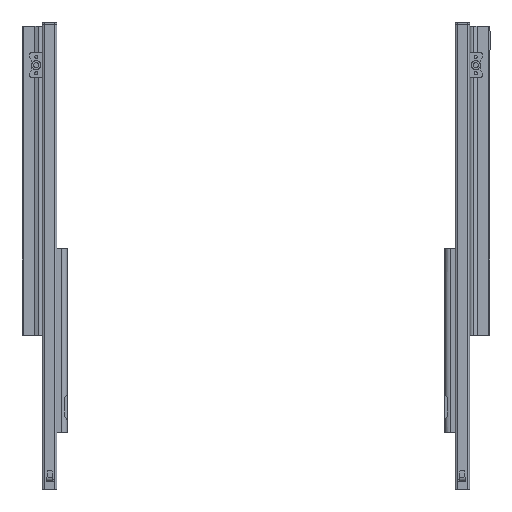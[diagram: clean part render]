
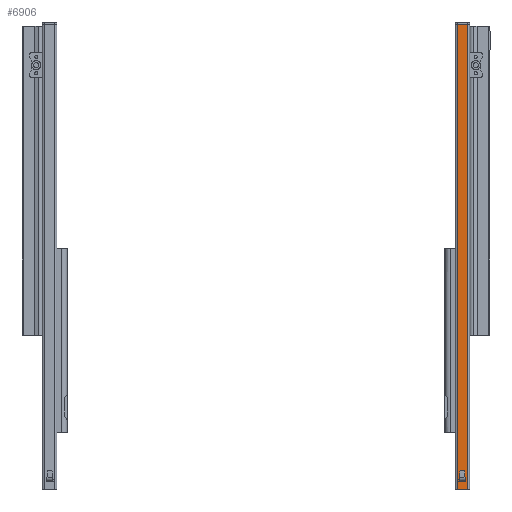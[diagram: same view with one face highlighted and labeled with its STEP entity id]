
A CAD part, front view. The second image highlights one B-rep face of the part: STEP entity #6906.
In plain terms, the highlighted planar face has unit normal (0, -1, 0).
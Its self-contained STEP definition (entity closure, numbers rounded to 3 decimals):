
#126=FACE_BOUND('',#950,.T.);
#516=FACE_OUTER_BOUND('',#949,.T.);
#949=EDGE_LOOP('',(#5133,#5134,#5135,#5136));
#950=EDGE_LOOP('',(#5137,#5138,#5139,#5140));
#1444=LINE('',#10423,#2074);
#1447=LINE('',#10429,#2077);
#1450=LINE('',#10461,#2080);
#1453=LINE('',#10468,#2083);
#1510=LINE('',#10655,#2140);
#1511=LINE('',#10659,#2141);
#1512=LINE('',#10661,#2142);
#1513=LINE('',#10662,#2143);
#2074=VECTOR('',#8436,10.);
#2077=VECTOR('',#8441,10.);
#2080=VECTOR('',#8446,10.);
#2083=VECTOR('',#8457,10.);
#2140=VECTOR('',#8648,10.);
#2141=VECTOR('',#8653,10.);
#2142=VECTOR('',#8654,10.);
#2143=VECTOR('',#8655,10.);
#2990=VERTEX_POINT('',#10420);
#2991=VERTEX_POINT('',#10422);
#2993=VERTEX_POINT('',#10428);
#2994=VERTEX_POINT('',#10460);
#3056=VERTEX_POINT('',#10652);
#3057=VERTEX_POINT('',#10654);
#3058=VERTEX_POINT('',#10658);
#3059=VERTEX_POINT('',#10660);
#3721=EDGE_CURVE('',#2990,#2991,#1444,.T.);
#3724=EDGE_CURVE('',#2991,#2993,#1447,.T.);
#3728=EDGE_CURVE('',#2993,#2994,#1450,.T.);
#3731=EDGE_CURVE('',#2994,#2990,#1453,.T.);
#3820=EDGE_CURVE('',#3056,#3057,#1510,.T.);
#3822=EDGE_CURVE('',#3056,#3058,#1511,.T.);
#3823=EDGE_CURVE('',#3058,#3059,#1512,.T.);
#3824=EDGE_CURVE('',#3059,#3057,#1513,.T.);
#5133=ORIENTED_EDGE('',*,*,#3822,.T.);
#5134=ORIENTED_EDGE('',*,*,#3823,.T.);
#5135=ORIENTED_EDGE('',*,*,#3824,.T.);
#5136=ORIENTED_EDGE('',*,*,#3820,.F.);
#5137=ORIENTED_EDGE('',*,*,#3721,.F.);
#5138=ORIENTED_EDGE('',*,*,#3731,.F.);
#5139=ORIENTED_EDGE('',*,*,#3728,.F.);
#5140=ORIENTED_EDGE('',*,*,#3724,.F.);
#6267=PLANE('',#7435);
#6906=ADVANCED_FACE('',(#516,#126),#6267,.F.);
#7435=AXIS2_PLACEMENT_3D('',#10657,#8651,#8652);
#8436=DIRECTION('',(0.,0.,-1.));
#8441=DIRECTION('',(1.,0.,0.));
#8446=DIRECTION('',(0.,0.,1.));
#8457=DIRECTION('',(-1.,0.,0.));
#8648=DIRECTION('',(0.,0.,-1.));
#8651=DIRECTION('center_axis',(0.,1.,0.));
#8652=DIRECTION('ref_axis',(1.,0.,0.));
#8653=DIRECTION('',(-1.,0.,0.));
#8654=DIRECTION('',(0.,0.,-1.));
#8655=DIRECTION('',(1.,0.,0.));
#10420=CARTESIAN_POINT('',(38.034,8.,-337.097));
#10422=CARTESIAN_POINT('',(38.034,8.,-338.597));
#10423=CARTESIAN_POINT('',(38.034,8.,-114.597));
#10428=CARTESIAN_POINT('',(44.652,8.,-338.597));
#10429=CARTESIAN_POINT('',(38.843,8.,-338.597));
#10460=CARTESIAN_POINT('',(44.652,8.,-337.097));
#10461=CARTESIAN_POINT('',(44.652,8.,-114.597));
#10468=CARTESIAN_POINT('',(38.843,8.,-337.097));
#10652=CARTESIAN_POINT('',(46.343,8.,107.903));
#10654=CARTESIAN_POINT('',(46.343,8.,-347.097));
#10655=CARTESIAN_POINT('',(46.343,8.,107.903));
#10657=CARTESIAN_POINT('Origin',(36.343,8.,107.903));
#10658=CARTESIAN_POINT('',(36.343,8.,107.903));
#10659=CARTESIAN_POINT('',(46.343,8.,107.903));
#10660=CARTESIAN_POINT('',(36.343,8.,-347.097));
#10661=CARTESIAN_POINT('',(36.343,8.,107.903));
#10662=CARTESIAN_POINT('',(46.343,8.,-347.097));
